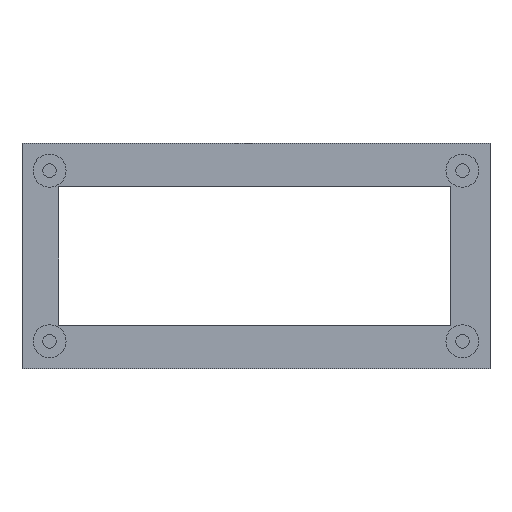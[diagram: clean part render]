
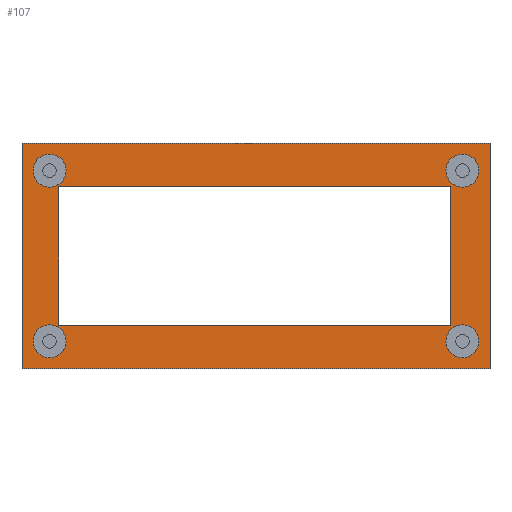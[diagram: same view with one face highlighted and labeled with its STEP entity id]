
A CAD part, top view. The second image highlights one B-rep face of the part: STEP entity #107.
In plain terms, the highlighted planar face has unit normal (0, 0, 1).
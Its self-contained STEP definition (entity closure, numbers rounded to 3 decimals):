
#15 = CARTESIAN_POINT ( 'NONE',  ( -35.8, 0., 3. ) ) ;
#19 = ORIENTED_EDGE ( 'NONE', *, *, #583, .T. ) ;
#25 = ORIENTED_EDGE ( 'NONE', *, *, #674, .F. ) ;
#36 = CARTESIAN_POINT ( 'NONE',  ( 40.5, -15.5, 3. ) ) ;
#41 = CARTESIAN_POINT ( 'NONE',  ( -34.5, -15.5, 3. ) ) ;
#42 = ORIENTED_EDGE ( 'NONE', *, *, #295, .F. ) ;
#51 = VERTEX_POINT ( 'NONE', #41 ) ;
#54 = CARTESIAN_POINT ( 'NONE',  ( -37.5, 15.5, 3. ) ) ;
#60 = EDGE_LOOP ( 'NONE', ( #365, #25 ) ) ;
#64 = VERTEX_POINT ( 'NONE', #585 ) ;
#69 = FACE_BOUND ( 'NONE', #60, .T. ) ;
#76 = CIRCLE ( 'NONE', #452, 3. ) ;
#79 = AXIS2_PLACEMENT_3D ( 'NONE', #380, #823, #151 ) ;
#103 = DIRECTION ( 'NONE',  ( 1., 0., 0. ) ) ;
#104 = DIRECTION ( 'NONE',  ( 0., 0., 1. ) ) ;
#107 = ADVANCED_FACE ( 'NONE', ( #724, #134, #130, #69, #423, #732 ), #719, .T. ) ;
#112 = AXIS2_PLACEMENT_3D ( 'NONE', #736, #592, #880 ) ;
#120 = ORIENTED_EDGE ( 'NONE', *, *, #495, .T. ) ;
#124 = CARTESIAN_POINT ( 'NONE',  ( -37.5, -15.5, 3. ) ) ;
#128 = VERTEX_POINT ( 'NONE', #573 ) ;
#130 = FACE_BOUND ( 'NONE', #892, .T. ) ;
#134 = FACE_BOUND ( 'NONE', #307, .T. ) ;
#136 = VERTEX_POINT ( 'NONE', #952 ) ;
#137 = DIRECTION ( 'NONE',  ( 1., 0., 0. ) ) ;
#151 = DIRECTION ( 'NONE',  ( 1., 0., 0. ) ) ;
#152 = CARTESIAN_POINT ( 'NONE',  ( 37.5, -15.5, 3. ) ) ;
#154 = LINE ( 'NONE', #443, #930 ) ;
#155 = AXIS2_PLACEMENT_3D ( 'NONE', #852, #399, #488 ) ;
#157 = VECTOR ( 'NONE', #206, 1000. ) ;
#158 = DIRECTION ( 'NONE',  ( 1., 0., 0. ) ) ;
#163 = CARTESIAN_POINT ( 'NONE',  ( 0., -20.5, 3. ) ) ;
#185 = EDGE_CURVE ( 'NONE', #64, #771, #639, .T. ) ;
#186 = CARTESIAN_POINT ( 'NONE',  ( 35.4, -12.6, 3. ) ) ;
#189 = VECTOR ( 'NONE', #659, 1000. ) ;
#191 = DIRECTION ( 'NONE',  ( 1., 0., 0. ) ) ;
#200 = CARTESIAN_POINT ( 'NONE',  ( 0., 12.6, 3. ) ) ;
#206 = DIRECTION ( 'NONE',  ( 0., -1., 0. ) ) ;
#230 = DIRECTION ( 'NONE',  ( 1., 0., 0. ) ) ;
#233 = EDGE_CURVE ( 'NONE', #735, #538, #598, .T. ) ;
#236 = ORIENTED_EDGE ( 'NONE', *, *, #347, .F. ) ;
#238 = LINE ( 'NONE', #15, #795 ) ;
#239 = VERTEX_POINT ( 'NONE', #456 ) ;
#241 = ORIENTED_EDGE ( 'NONE', *, *, #290, .F. ) ;
#251 = ORIENTED_EDGE ( 'NONE', *, *, #922, .F. ) ;
#254 = CARTESIAN_POINT ( 'NONE',  ( 0., -12.6, 3. ) ) ;
#267 = EDGE_LOOP ( 'NONE', ( #120, #326, #455, #251 ) ) ;
#290 = EDGE_CURVE ( 'NONE', #239, #556, #866, .T. ) ;
#295 = EDGE_CURVE ( 'NONE', #556, #239, #76, .T. ) ;
#307 = EDGE_LOOP ( 'NONE', ( #912, #672 ) ) ;
#314 = CARTESIAN_POINT ( 'NONE',  ( -42.5, 20.5, 3. ) ) ;
#324 = AXIS2_PLACEMENT_3D ( 'NONE', #345, #654, #873 ) ;
#326 = ORIENTED_EDGE ( 'NONE', *, *, #185, .T. ) ;
#335 = CARTESIAN_POINT ( 'NONE',  ( -40.5, -15.5, 3. ) ) ;
#338 = EDGE_LOOP ( 'NONE', ( #721, #19, #494, #711 ) ) ;
#340 = AXIS2_PLACEMENT_3D ( 'NONE', #551, #926, #191 ) ;
#345 = CARTESIAN_POINT ( 'NONE',  ( 0., 0., 3. ) ) ;
#347 = EDGE_CURVE ( 'NONE', #929, #51, #934, .T. ) ;
#350 = LINE ( 'NONE', #200, #602 ) ;
#352 = VECTOR ( 'NONE', #103, 1000. ) ;
#365 = ORIENTED_EDGE ( 'NONE', *, *, #479, .F. ) ;
#380 = CARTESIAN_POINT ( 'NONE',  ( 37.5, 15.5, 3. ) ) ;
#384 = CARTESIAN_POINT ( 'NONE',  ( 42.5, 20.5, 3. ) ) ;
#399 = DIRECTION ( 'NONE',  ( 0., 0., 1. ) ) ;
#402 = CIRCLE ( 'NONE', #829, 3. ) ;
#423 = FACE_OUTER_BOUND ( 'NONE', #338, .T. ) ;
#432 = EDGE_CURVE ( 'NONE', #872, #771, #491, .T. ) ;
#439 = CARTESIAN_POINT ( 'NONE',  ( 35.4, 0., 3. ) ) ;
#443 = CARTESIAN_POINT ( 'NONE',  ( -42.5, 0., 3. ) ) ;
#451 = VERTEX_POINT ( 'NONE', #870 ) ;
#452 = AXIS2_PLACEMENT_3D ( 'NONE', #751, #522, #230 ) ;
#455 = ORIENTED_EDGE ( 'NONE', *, *, #432, .F. ) ;
#456 = CARTESIAN_POINT ( 'NONE',  ( 40.5, 15.5, 3. ) ) ;
#470 = LINE ( 'NONE', #767, #352 ) ;
#474 = CARTESIAN_POINT ( 'NONE',  ( -42.5, -20.5, 3. ) ) ;
#479 = EDGE_CURVE ( 'NONE', #128, #451, #543, .T. ) ;
#488 = DIRECTION ( 'NONE',  ( 1., 0., 0. ) ) ;
#491 = LINE ( 'NONE', #254, #791 ) ;
#494 = ORIENTED_EDGE ( 'NONE', *, *, #867, .F. ) ;
#495 = EDGE_CURVE ( 'NONE', #693, #64, #350, .T. ) ;
#512 = AXIS2_PLACEMENT_3D ( 'NONE', #124, #104, #915 ) ;
#513 = CARTESIAN_POINT ( 'NONE',  ( 34.5, 15.5, 3. ) ) ;
#521 = CARTESIAN_POINT ( 'NONE',  ( 42.5, 0., 3. ) ) ;
#522 = DIRECTION ( 'NONE',  ( 0., 0., 1. ) ) ;
#523 = EDGE_CURVE ( 'NONE', #850, #136, #402, .T. ) ;
#529 = DIRECTION ( 'NONE',  ( 0., 0., 1. ) ) ;
#538 = VERTEX_POINT ( 'NONE', #645 ) ;
#543 = CIRCLE ( 'NONE', #788, 3. ) ;
#551 = CARTESIAN_POINT ( 'NONE',  ( -37.5, -15.5, 3. ) ) ;
#556 = VERTEX_POINT ( 'NONE', #513 ) ;
#573 = CARTESIAN_POINT ( 'NONE',  ( -40.5, 15.5, 3. ) ) ;
#583 = EDGE_CURVE ( 'NONE', #538, #895, #679, .T. ) ;
#585 = CARTESIAN_POINT ( 'NONE',  ( 35.4, 12.6, 3. ) ) ;
#588 = CIRCLE ( 'NONE', #155, 3. ) ;
#592 = DIRECTION ( 'NONE',  ( 0., 0., 1. ) ) ;
#598 = LINE ( 'NONE', #163, #740 ) ;
#602 = VECTOR ( 'NONE', #785, 1000. ) ;
#612 = ORIENTED_EDGE ( 'NONE', *, *, #746, .F. ) ;
#635 = EDGE_LOOP ( 'NONE', ( #236, #612 ) ) ;
#639 = LINE ( 'NONE', #439, #157 ) ;
#645 = CARTESIAN_POINT ( 'NONE',  ( 42.5, -20.5, 3. ) ) ;
#649 = EDGE_CURVE ( 'NONE', #735, #706, #154, .T. ) ;
#654 = DIRECTION ( 'NONE',  ( 0., 0., 1. ) ) ;
#659 = DIRECTION ( 'NONE',  ( 0., 1., 0. ) ) ;
#672 = ORIENTED_EDGE ( 'NONE', *, *, #523, .F. ) ;
#674 = EDGE_CURVE ( 'NONE', #451, #128, #802, .T. ) ;
#679 = LINE ( 'NONE', #521, #189 ) ;
#685 = CARTESIAN_POINT ( 'NONE',  ( -35.8, -12.6, 3. ) ) ;
#690 = CARTESIAN_POINT ( 'NONE',  ( -35.8, 12.6, 3. ) ) ;
#692 = DIRECTION ( 'NONE',  ( 1., 0., 0. ) ) ;
#693 = VERTEX_POINT ( 'NONE', #690 ) ;
#706 = VERTEX_POINT ( 'NONE', #314 ) ;
#711 = ORIENTED_EDGE ( 'NONE', *, *, #649, .F. ) ;
#719 = PLANE ( 'NONE',  #324 ) ;
#721 = ORIENTED_EDGE ( 'NONE', *, *, #233, .T. ) ;
#724 = FACE_BOUND ( 'NONE', #635, .T. ) ;
#732 = FACE_BOUND ( 'NONE', #267, .T. ) ;
#735 = VERTEX_POINT ( 'NONE', #474 ) ;
#736 = CARTESIAN_POINT ( 'NONE',  ( -37.5, 15.5, 3. ) ) ;
#740 = VECTOR ( 'NONE', #158, 1000. ) ;
#746 = EDGE_CURVE ( 'NONE', #51, #929, #908, .T. ) ;
#751 = CARTESIAN_POINT ( 'NONE',  ( 37.5, 15.5, 3. ) ) ;
#767 = CARTESIAN_POINT ( 'NONE',  ( 0., 20.5, 3. ) ) ;
#771 = VERTEX_POINT ( 'NONE', #186 ) ;
#772 = EDGE_CURVE ( 'NONE', #136, #850, #588, .T. ) ;
#785 = DIRECTION ( 'NONE',  ( 1., 0., 0. ) ) ;
#788 = AXIS2_PLACEMENT_3D ( 'NONE', #54, #811, #137 ) ;
#790 = DIRECTION ( 'NONE',  ( 1., 0., 0. ) ) ;
#791 = VECTOR ( 'NONE', #692, 1000. ) ;
#795 = VECTOR ( 'NONE', #927, 1000. ) ;
#802 = CIRCLE ( 'NONE', #112, 3. ) ;
#811 = DIRECTION ( 'NONE',  ( 0., 0., 1. ) ) ;
#823 = DIRECTION ( 'NONE',  ( 0., 0., 1. ) ) ;
#829 = AXIS2_PLACEMENT_3D ( 'NONE', #152, #529, #790 ) ;
#850 = VERTEX_POINT ( 'NONE', #36 ) ;
#852 = CARTESIAN_POINT ( 'NONE',  ( 37.5, -15.5, 3. ) ) ;
#866 = CIRCLE ( 'NONE', #79, 3. ) ;
#867 = EDGE_CURVE ( 'NONE', #706, #895, #470, .T. ) ;
#870 = CARTESIAN_POINT ( 'NONE',  ( -34.5, 15.5, 3. ) ) ;
#872 = VERTEX_POINT ( 'NONE', #685 ) ;
#873 = DIRECTION ( 'NONE',  ( 1., 0., 0. ) ) ;
#880 = DIRECTION ( 'NONE',  ( 1., 0., 0. ) ) ;
#892 = EDGE_LOOP ( 'NONE', ( #42, #241 ) ) ;
#895 = VERTEX_POINT ( 'NONE', #384 ) ;
#899 = DIRECTION ( 'NONE',  ( 0., 1., 0. ) ) ;
#908 = CIRCLE ( 'NONE', #340, 3. ) ;
#912 = ORIENTED_EDGE ( 'NONE', *, *, #772, .F. ) ;
#915 = DIRECTION ( 'NONE',  ( 1., 0., 0. ) ) ;
#922 = EDGE_CURVE ( 'NONE', #693, #872, #238, .T. ) ;
#926 = DIRECTION ( 'NONE',  ( 0., 0., 1. ) ) ;
#927 = DIRECTION ( 'NONE',  ( 0., -1., 0. ) ) ;
#929 = VERTEX_POINT ( 'NONE', #335 ) ;
#930 = VECTOR ( 'NONE', #899, 1000. ) ;
#934 = CIRCLE ( 'NONE', #512, 3. ) ;
#952 = CARTESIAN_POINT ( 'NONE',  ( 34.5, -15.5, 3. ) ) ;
